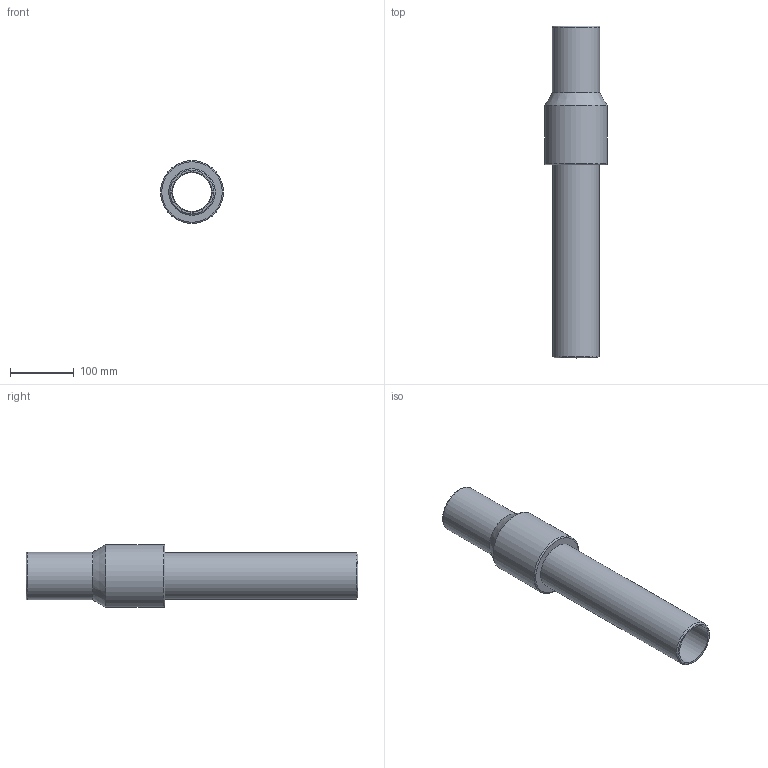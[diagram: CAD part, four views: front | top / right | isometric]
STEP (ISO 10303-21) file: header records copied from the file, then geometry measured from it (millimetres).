
FILE_DESCRIPTION(/* description */ ('Unknown'),/* implementation_level */ '2;1');
FILE_NAME(/* name */ 'RTSNP075C',/* time_stamp */ '2022-04-26T17:20:21+02:00',/* author */ ('Unknown'),/* organization */ ('Unknown'),/* preprocessor_version */ 'ST-DEVELOPER v18.1',/* originating_system */ 'Solid Edge',/* authorisation */ 'Unknown');
FILE_SCHEMA (('AUTOMOTIVE_DESIGN {1 0 10303 214 3 1 1}'));
Length unit declared in the file: millimetre
Products named in the file (3): RTSNP075C; Partea ACCIAIO; Parte PE_
Assembly tree (2 placements, depth 2):
  RTSNP075C
    Partea ACCIAIO
    Parte PE_
Bounding box: 99 x 522 x 99 mm (x, y, z)
Volume: 945243 mm3; surface area: 284540.3 mm2
Topology: 2 solids, 2 shells, 15 faces, 27 edges, 17 vertices
Faces by surface type: cylinder 6, plane 5, cone 2, torus 2
Full cylindrical faces by diameter (mm): 61.4 x1, 63.44 x1, 73 x2, 75 x1, 99 x1
Entity records: 388 total; most frequent: DIRECTION 66, CARTESIAN_POINT 48, AXIS2_PLACEMENT_3D 33, ORIENTED_EDGE 30, EDGE_LOOP 30, FACE_BOUND 30, EDGE_CURVE 15, VERTEX_POINT 15
